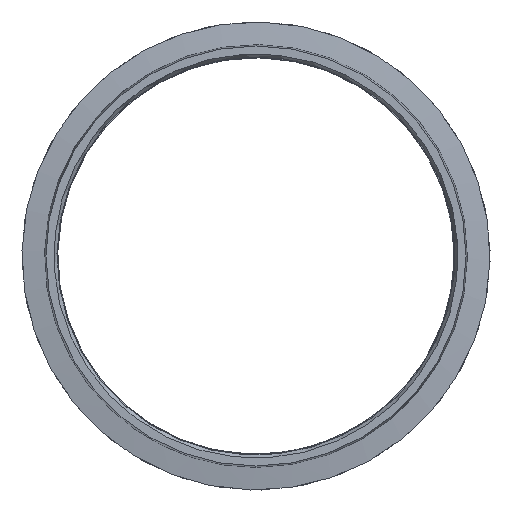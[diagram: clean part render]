
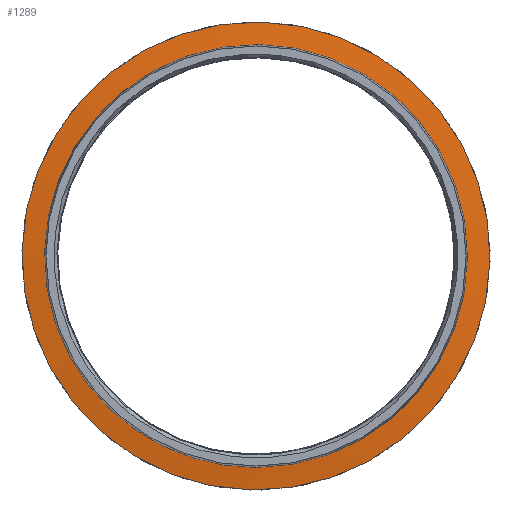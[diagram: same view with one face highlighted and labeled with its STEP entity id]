
A CAD part, left-side view. The second image highlights one B-rep face of the part: STEP entity #1289.
In plain terms, the highlighted conical face has half-angle 83 degrees and reference radius 40.466 mm.
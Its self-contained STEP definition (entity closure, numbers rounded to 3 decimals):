
#164=CONICAL_SURFACE('',#1436,40.466,1.449);
#234=FACE_OUTER_BOUND('',#329,.T.);
#329=EDGE_LOOP('',(#1099,#1100,#1101,#1102,#1103));
#357=LINE('',#7524,#374);
#374=VECTOR('',#1686,40.466);
#443=CIRCLE('',#1403,44.8);
#444=CIRCLE('',#1404,40.466);
#445=CIRCLE('',#1405,40.466);
#583=VERTEX_POINT('',#4640);
#584=VERTEX_POINT('',#4670);
#585=VERTEX_POINT('',#4671);
#731=EDGE_CURVE('',#583,#583,#443,.T.);
#733=EDGE_CURVE('',#584,#585,#444,.T.);
#734=EDGE_CURVE('',#585,#584,#445,.T.);
#767=EDGE_CURVE('',#583,#584,#357,.T.);
#1099=ORIENTED_EDGE('',*,*,#731,.T.);
#1100=ORIENTED_EDGE('',*,*,#767,.T.);
#1101=ORIENTED_EDGE('',*,*,#733,.T.);
#1102=ORIENTED_EDGE('',*,*,#734,.T.);
#1103=ORIENTED_EDGE('',*,*,#767,.F.);
#1289=ADVANCED_FACE('',(#234),#164,.T.);
#1403=AXIS2_PLACEMENT_3D('',#4641,#1613,#1614);
#1404=AXIS2_PLACEMENT_3D('',#4672,#1616,#1617);
#1405=AXIS2_PLACEMENT_3D('',#4673,#1618,#1619);
#1436=AXIS2_PLACEMENT_3D('',#7523,#1684,#1685);
#1613=DIRECTION('center_axis',(-1.,0.,0.));
#1614=DIRECTION('ref_axis',(0.,-0.878,0.479));
#1616=DIRECTION('center_axis',(1.,0.,0.));
#1617=DIRECTION('ref_axis',(0.,-0.878,0.479));
#1618=DIRECTION('center_axis',(1.,0.,0.));
#1619=DIRECTION('ref_axis',(0.,-0.878,0.479));
#1684=DIRECTION('center_axis',(1.,0.,0.));
#1685=DIRECTION('ref_axis',(0.,-0.878,0.479));
#1686=DIRECTION('',(-0.122,-0.871,0.476));
#4640=CARTESIAN_POINT('',(-52.265,39.316,-21.478));
#4641=CARTESIAN_POINT('Origin',(-52.265,0.,0.));
#4670=CARTESIAN_POINT('',(-52.797,35.513,-19.401));
#4671=CARTESIAN_POINT('',(-52.797,0.,-40.466));
#4672=CARTESIAN_POINT('Origin',(-52.797,0.,0.));
#4673=CARTESIAN_POINT('Origin',(-52.797,0.,0.));
#7523=CARTESIAN_POINT('Origin',(-52.797,0.,0.));
#7524=CARTESIAN_POINT('',(-52.797,35.513,-19.401));
